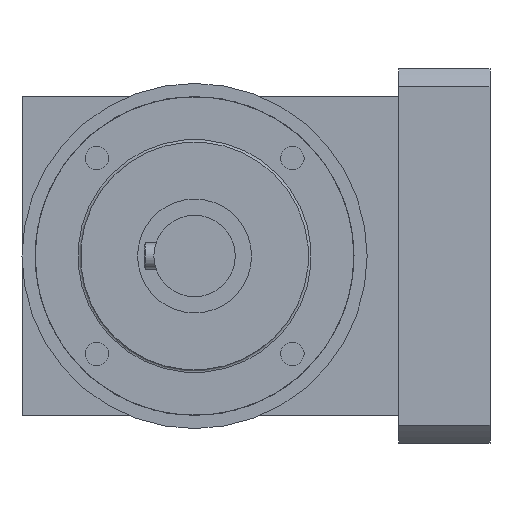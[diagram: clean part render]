
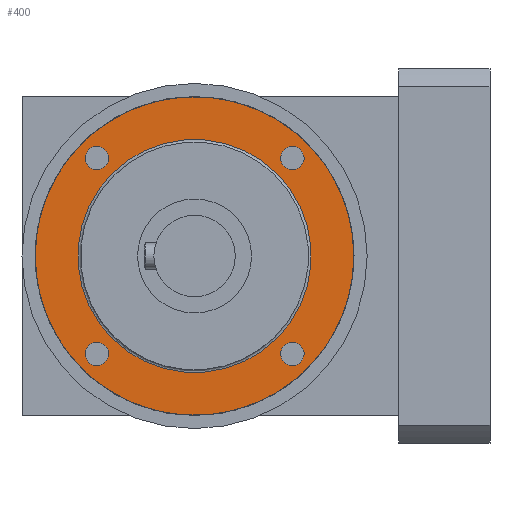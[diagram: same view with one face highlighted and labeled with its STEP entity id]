
A CAD part, left-side view. The second image highlights one B-rep face of the part: STEP entity #400.
In plain terms, the highlighted planar face has unit normal (-1, 0, 0).
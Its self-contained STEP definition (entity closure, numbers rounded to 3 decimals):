
#400=ADVANCED_FACE('',(#595,#596,#597,#598,#599,#684),#498,.T.);
#498=PLANE('',#1880);
#595=FACE_BOUND('',#818,.T.);
#596=FACE_BOUND('',#819,.T.);
#597=FACE_BOUND('',#820,.T.);
#598=FACE_BOUND('',#821,.T.);
#599=FACE_BOUND('',#822,.T.);
#684=FACE_OUTER_BOUND('',#823,.T.);
#818=EDGE_LOOP('',(#1052));
#819=EDGE_LOOP('',(#1053));
#820=EDGE_LOOP('',(#1054));
#821=EDGE_LOOP('',(#1055));
#822=EDGE_LOOP('',(#1056));
#823=EDGE_LOOP('',(#1057));
#1052=ORIENTED_EDGE('',*,*,#1547,.T.);
#1053=ORIENTED_EDGE('',*,*,#1548,.T.);
#1054=ORIENTED_EDGE('',*,*,#1549,.T.);
#1055=ORIENTED_EDGE('',*,*,#1550,.T.);
#1056=ORIENTED_EDGE('',*,*,#1551,.T.);
#1057=ORIENTED_EDGE('',*,*,#1552,.T.);
#1381=VERTEX_POINT('',#2723);
#1382=VERTEX_POINT('',#2725);
#1383=VERTEX_POINT('',#2727);
#1384=VERTEX_POINT('',#2729);
#1385=VERTEX_POINT('',#2731);
#1386=VERTEX_POINT('',#2733);
#1547=EDGE_CURVE('',#1381,#1381,#1729,.T.);
#1548=EDGE_CURVE('',#1382,#1382,#1730,.T.);
#1549=EDGE_CURVE('',#1383,#1383,#1731,.T.);
#1550=EDGE_CURVE('',#1384,#1384,#1732,.T.);
#1551=EDGE_CURVE('',#1385,#1385,#1733,.T.);
#1552=EDGE_CURVE('',#1386,#1386,#1734,.T.);
#1729=CIRCLE('',#1874,3.594);
#1730=CIRCLE('',#1875,3.594);
#1731=CIRCLE('',#1876,3.594);
#1732=CIRCLE('',#1877,3.594);
#1733=CIRCLE('',#1878,35.8);
#1734=CIRCLE('',#1879,49.);
#1874=AXIS2_PLACEMENT_3D('',#2722,#2192,#2193);
#1875=AXIS2_PLACEMENT_3D('',#2724,#2194,#2195);
#1876=AXIS2_PLACEMENT_3D('',#2726,#2196,#2197);
#1877=AXIS2_PLACEMENT_3D('',#2728,#2198,#2199);
#1878=AXIS2_PLACEMENT_3D('',#2730,#2200,#2201);
#1879=AXIS2_PLACEMENT_3D('',#2732,#2202,#2203);
#1880=AXIS2_PLACEMENT_3D('',#2734,#2204,#2205);
#2192=DIRECTION('',(1.,0.,0.));
#2193=DIRECTION('',(0.,0.707,-0.707));
#2194=DIRECTION('',(1.,0.,0.));
#2195=DIRECTION('',(0.,0.707,0.707));
#2196=DIRECTION('',(1.,0.,0.));
#2197=DIRECTION('',(0.,-0.707,0.707));
#2198=DIRECTION('',(1.,0.,0.));
#2199=DIRECTION('',(0.,-0.707,-0.707));
#2200=DIRECTION('',(1.,0.,0.));
#2201=DIRECTION('',(0.,0.707,0.707));
#2202=DIRECTION('',(-1.,0.,0.));
#2203=DIRECTION('',(0.,0.707,0.707));
#2204=DIRECTION('',(-1.,0.,0.));
#2205=DIRECTION('',(0.,0.707,0.707));
#2722=CARTESIAN_POINT('',(-140.,30.052,30.052));
#2723=CARTESIAN_POINT('',(-140.,32.593,27.511));
#2724=CARTESIAN_POINT('',(-140.,-30.052,30.052));
#2725=CARTESIAN_POINT('',(-140.,-27.511,32.593));
#2726=CARTESIAN_POINT('',(-140.,-30.052,-30.052));
#2727=CARTESIAN_POINT('',(-140.,-32.593,-27.511));
#2728=CARTESIAN_POINT('',(-140.,30.052,-30.052));
#2729=CARTESIAN_POINT('',(-140.,27.511,-32.593));
#2730=CARTESIAN_POINT('',(-140.,0.,0.));
#2731=CARTESIAN_POINT('',(-140.,25.314,25.314));
#2732=CARTESIAN_POINT('',(-140.,0.,0.));
#2733=CARTESIAN_POINT('',(-140.,34.648,34.648));
#2734=CARTESIAN_POINT('',(-140.,0.,0.));
